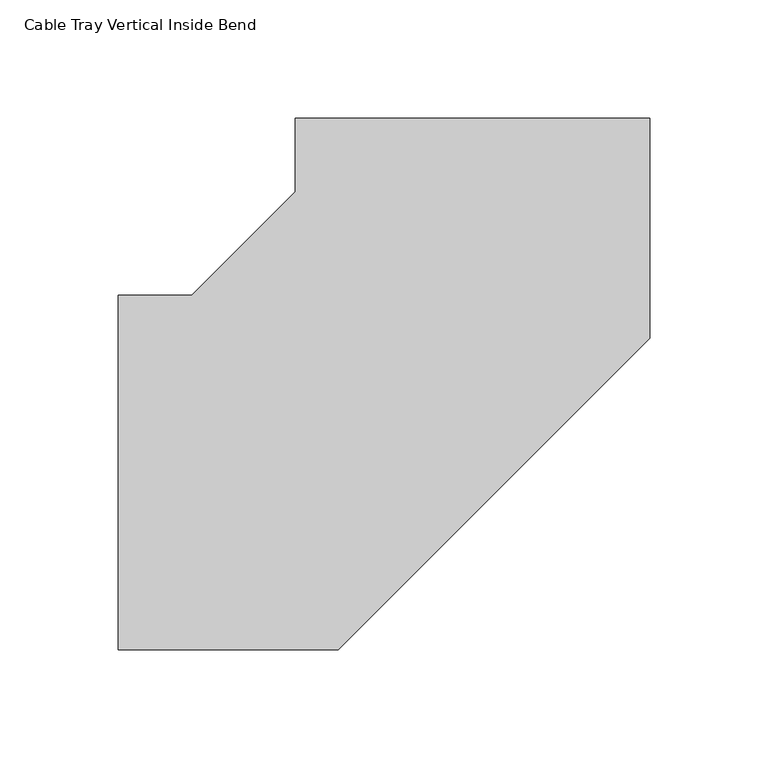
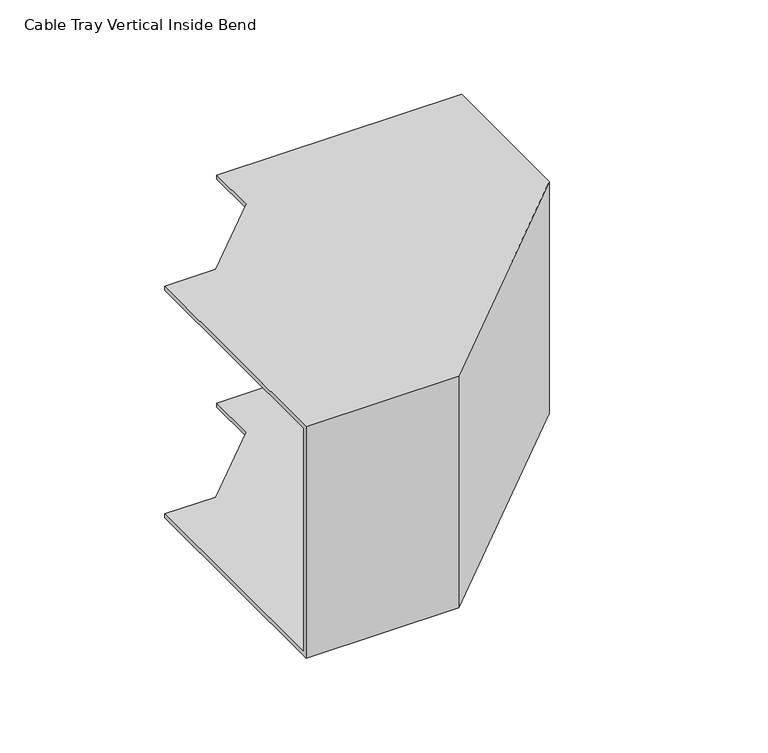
"""IFC4 building model written with IfcOpenShell, lengths in millimetres: cable carrier fitting geometry, Cable Tray Vertical Inside Bend : ELEC_ELV_TKG_N2402."""

from ifc_helpers import new_model, si_unit, origin, place, context, project, spatial, faceted_brep, source, transform, mapped, element, save


def cable_tray_vertical_inside_bend_06119d48(model_context):
    return source(origin(), model_context, "Body", "Brep", [
        faceted_brep([(-149.995106, 75.0, 75.0), (-149.995106, 75.0, 72.46), (-149.995106, -72.46, 72.46), (-149.995106, -72.46, -72.46), (-149.995106, 75.0, -72.46), (-149.995106, 75.0, -75.0), (-149.995106, -75.0, -75.0), (-149.995106, -75.0, 75.0), (-74.995106, 149.9975529, 75.0), (75.0048939, 149.9926588, 75.0), (75.0048939, 149.9926588, -75.0), (-74.995106, 149.9975529, -75.0), (-74.995106, 149.9975529, -72.46), (72.4648939, 149.9927417, -72.46), (72.4648939, 149.9927417, 72.46), (-74.995106, 149.9975529, 72.46), (-118.9298055, 75.0, 75.0), (-118.9298055, 75.0, 72.46), (-74.9961196, 118.9322525, 72.46), (72.4618875, 57.8489186, 72.46), (-57.8512828, -72.46, 72.46), (-57.8512828, -72.46, -72.46), (72.4618875, 57.8489186, -72.46), (-74.9961196, 118.9322525, -72.46), (-118.9298055, 75.0, -72.46), (-118.9298055, 75.0, -75.0), (-74.9961196, 118.9322525, -75.0), (75.0018532, 56.7967575, -75.0), (-56.7992046, -75.0, -75.0), (-56.7992046, -75.0, 75.0), (75.0018532, 56.7967575, 75.0), (-74.9961196, 118.9322525, 75.0)], [[[0, 1, 2, 3, 4, 5, 6, 7]], [[8, 9, 10, 11, 12, 13, 14, 15]], [[1, 0, 16, 17]], [[2, 1, 17, 18, 15, 14, 19, 20]], [[3, 2, 20, 21]], [[4, 3, 21, 22, 13, 12, 23, 24]], [[5, 4, 24, 25]], [[6, 5, 25, 26, 11, 10, 27, 28]], [[7, 6, 28, 29]], [[0, 7, 29, 30, 9, 8, 31, 16]], [[17, 16, 31, 18]], [[21, 20, 19, 22]], [[25, 24, 23, 26]], [[29, 28, 27, 30]], [[18, 31, 8, 15]], [[22, 19, 14, 13]], [[26, 23, 12, 11]], [[30, 27, 10, 9]]]),
    ])


if __name__ == "__main__":
    model = new_model("IFC4")
    model_context = context("Model", 3, world=origin())
    ifc_project = project(units=[si_unit("LENGTHUNIT", "METRE", prefix="MILLI")], contexts=[model_context])
    site = spatial("IfcSite", under=ifc_project)
    building = spatial("IfcBuilding", under=site)
    placement = place(None, origin())
    cable_tray_vertical_inside_bend_shape = cable_tray_vertical_inside_bend_06119d48(model_context)
    element("IfcCableCarrierFitting", 1, ObjectType="Cable Tray Vertical Inside Bend : ELEC_ELV_TKG_N2402", at=placement, inside=building, context=model_context, shape_type="MappedRepresentation", body=[
        mapped(cable_tray_vertical_inside_bend_shape, transform((0.0, 0.0, 0.0), x_axis=(1.0, 0.0, 0.0), y_axis=(0.0, 1.0, 0.0), z_axis=(0.0, 0.0, 1.0))),
    ])
    save(model, "model.ifc")
